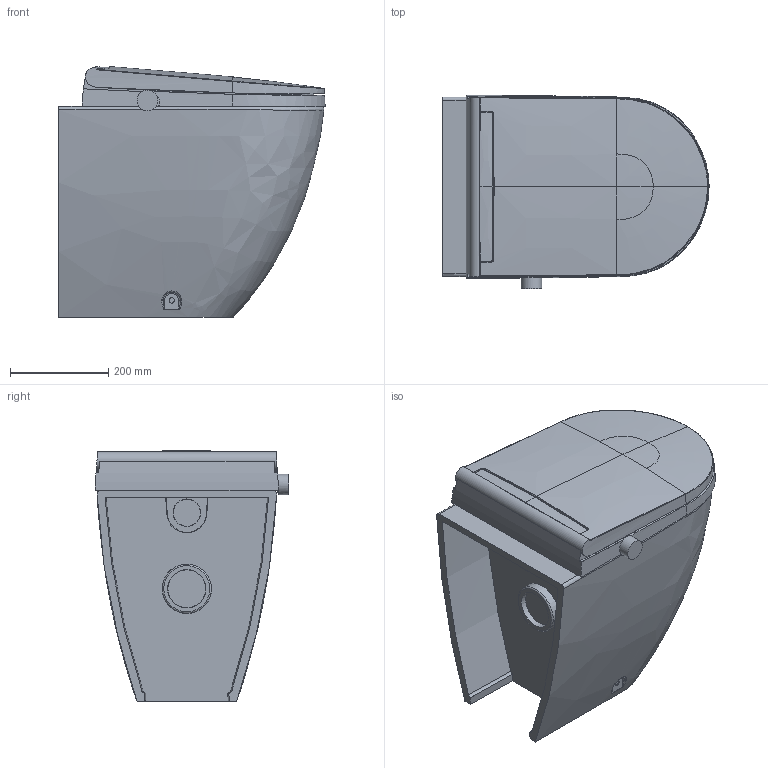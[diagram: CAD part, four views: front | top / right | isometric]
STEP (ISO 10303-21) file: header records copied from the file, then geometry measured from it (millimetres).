
FILE_DESCRIPTION(/* description */ (''),/* implementation_level */ '2;1');
FILE_NAME(/* name */ 'HY23861BIM_mit Sitz und Deckel.stp',/* time_stamp */ '2025-06-04T15:55:03+02:00',/* author */ (''),/* organization */ (''),/* preprocessor_version */ 'ST-DEVELOPER v16.7',/* originating_system */ 'SIEMENS PLM Software NX 1946',/* authorisation */ '');
FILE_SCHEMA (('AUTOMOTIVE_DESIGN { 1 0 10303 214 3 1 1 1 }'));
Length unit declared in the file: millimetre
Products named in the file (1): elaa11984F74bvtw
Bounding box: 542.66 x 394.93 x 511.07 mm (x, y, z)
Volume: 57040409.8 mm3; surface area: 1183952.3 mm2
Topology: 1 solids, 3 shells, 205 faces, 550 edges, 358 vertices
Faces by surface type: plane 81, bspline 74, cylinder 33, extrusion 8, cone 6, revolution 2, torus 1
Full cylindrical faces by diameter (mm): 11 x2, 17 x2, 42 x1
Entity records: 17687 total; most frequent: CARTESIAN_POINT 13376, ORIENTED_EDGE 1072, DIRECTION 577, EDGE_CURVE 536, VERTEX_POINT 353, B_SPLINE_CURVE_WITH_KNOTS 302, EDGE_LOOP 221, AXIS2_PLACEMENT_3D 218
